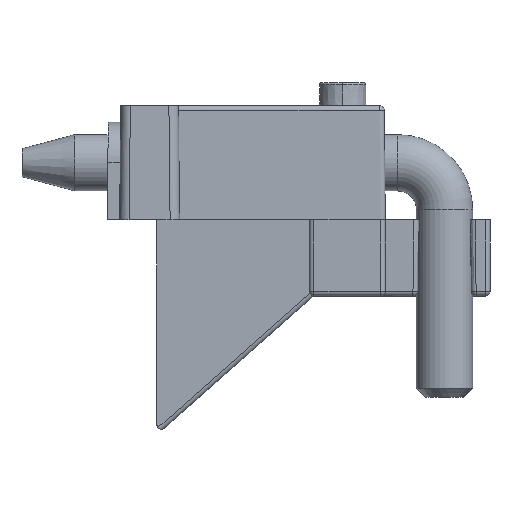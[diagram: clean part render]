
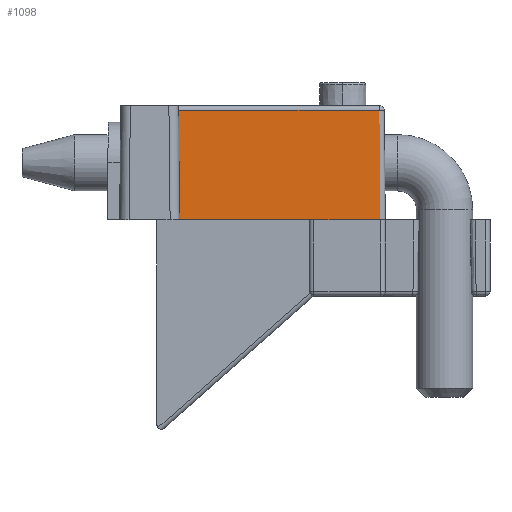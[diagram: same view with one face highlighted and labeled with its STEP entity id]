
A CAD part, left-side view. The second image highlights one B-rep face of the part: STEP entity #1098.
In plain terms, the highlighted planar face has unit normal (-1, 0, 0.011).
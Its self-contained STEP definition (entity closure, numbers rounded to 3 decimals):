
#59 = EDGE_CURVE ( 'NONE', #130, #2570, #2411, .T. ) ;
#90 = CARTESIAN_POINT ( 'NONE',  ( -5.729, -4.551, -0.021 ) ) ;
#99 = EDGE_LOOP ( 'NONE', ( #2715, #3440, #1097, #1461, #2505, #1184 ) ) ;
#130 = VERTEX_POINT ( 'NONE', #987 ) ;
#139 = VECTOR ( 'NONE', #448, 1000. ) ;
#299 = LINE ( 'NONE', #1572, #1332 ) ;
#332 = VECTOR ( 'NONE', #896, 1000. ) ;
#350 = DIRECTION ( 'NONE',  ( 0., -1., 0. ) ) ;
#430 = VECTOR ( 'NONE', #350, 1000. ) ;
#448 = DIRECTION ( 'NONE',  ( 0., 1., 0. ) ) ;
#459 = VECTOR ( 'NONE', #2008, 1000. ) ;
#527 = CARTESIAN_POINT ( 'NONE',  ( -5.607, 9.869, 11.645 ) ) ;
#544 = CARTESIAN_POINT ( 'NONE',  ( -5.729, 9.747, -0.021 ) ) ;
#585 = VERTEX_POINT ( 'NONE', #527 ) ;
#750 = CARTESIAN_POINT ( 'NONE',  ( -5.729, -4.044, -0.021 ) ) ;
#789 = LINE ( 'NONE', #750, #459 ) ;
#896 = DIRECTION ( 'NONE',  ( -0.01, -0.01, -1. ) ) ;
#915 = DIRECTION ( 'NONE',  ( 0., 1., 0. ) ) ;
#987 = CARTESIAN_POINT ( 'NONE',  ( -5.729, 9.747, -0.021 ) ) ;
#1097 = ORIENTED_EDGE ( 'NONE', *, *, #3066, .T. ) ;
#1098 = ADVANCED_FACE ( 'NONE', ( #1451 ), #2640, .T. ) ;
#1163 = DIRECTION ( 'NONE',  ( -1., 0., 0.01 ) ) ;
#1184 = ORIENTED_EDGE ( 'NONE', *, *, #2038, .F. ) ;
#1213 = VECTOR ( 'NONE', #915, 1000. ) ;
#1255 = DIRECTION ( 'NONE',  ( 0.01, 0.01, 1. ) ) ;
#1314 = CARTESIAN_POINT ( 'NONE',  ( -5.607, 9.874, 11.645 ) ) ;
#1332 = VECTOR ( 'NONE', #1255, 1000. ) ;
#1417 = VERTEX_POINT ( 'NONE', #3753 ) ;
#1451 = FACE_OUTER_BOUND ( 'NONE', #99, .T. ) ;
#1461 = ORIENTED_EDGE ( 'NONE', *, *, #59, .T. ) ;
#1572 = CARTESIAN_POINT ( 'NONE',  ( -5.727, -11.646, 0.203 ) ) ;
#1575 = CARTESIAN_POINT ( 'NONE',  ( -5.729, -11.649, -0.021 ) ) ;
#1864 = EDGE_CURVE ( 'NONE', #3291, #2570, #789, .T. ) ;
#1959 = DIRECTION ( 'NONE',  ( 0.01, 0., 1. ) ) ;
#1962 = LINE ( 'NONE', #1314, #139 ) ;
#2008 = DIRECTION ( 'NONE',  ( 0., 1., 0. ) ) ;
#2038 = EDGE_CURVE ( 'NONE', #1417, #3291, #3589, .T. ) ;
#2097 = AXIS2_PLACEMENT_3D ( 'NONE', #3825, #1163, #1959 ) ;
#2367 = VERTEX_POINT ( 'NONE', #3310 ) ;
#2380 = CARTESIAN_POINT ( 'NONE',  ( -5.729, -4.044, -0.021 ) ) ;
#2411 = LINE ( 'NONE', #3806, #430 ) ;
#2436 = EDGE_CURVE ( 'NONE', #1417, #2367, #299, .T. ) ;
#2483 = EDGE_CURVE ( 'NONE', #2367, #585, #1962, .T. ) ;
#2505 = ORIENTED_EDGE ( 'NONE', *, *, #1864, .F. ) ;
#2570 = VERTEX_POINT ( 'NONE', #90 ) ;
#2640 = PLANE ( 'NONE',  #2097 ) ;
#2715 = ORIENTED_EDGE ( 'NONE', *, *, #2436, .T. ) ;
#3066 = EDGE_CURVE ( 'NONE', #585, #130, #3506, .T. ) ;
#3291 = VERTEX_POINT ( 'NONE', #1575 ) ;
#3310 = CARTESIAN_POINT ( 'NONE',  ( -5.607, -11.526, 11.645 ) ) ;
#3440 = ORIENTED_EDGE ( 'NONE', *, *, #2483, .T. ) ;
#3506 = LINE ( 'NONE', #544, #332 ) ;
#3589 = LINE ( 'NONE', #2380, #1213 ) ;
#3753 = CARTESIAN_POINT ( 'NONE',  ( -5.729, -11.649, -0.021 ) ) ;
#3806 = CARTESIAN_POINT ( 'NONE',  ( -5.729, 9.747, -0.021 ) ) ;
#3825 = CARTESIAN_POINT ( 'NONE',  ( -5.729, 9.747, -0.021 ) ) ;
